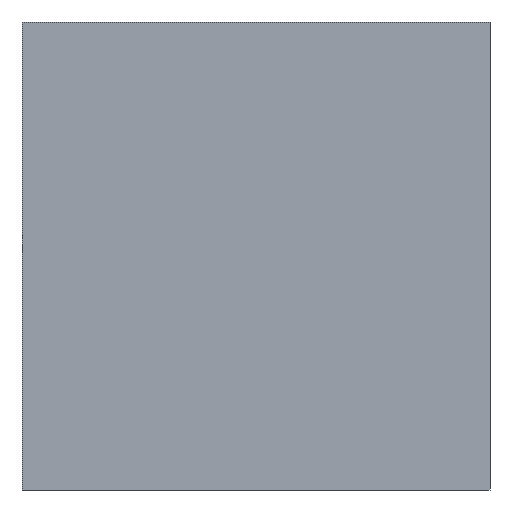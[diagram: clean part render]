
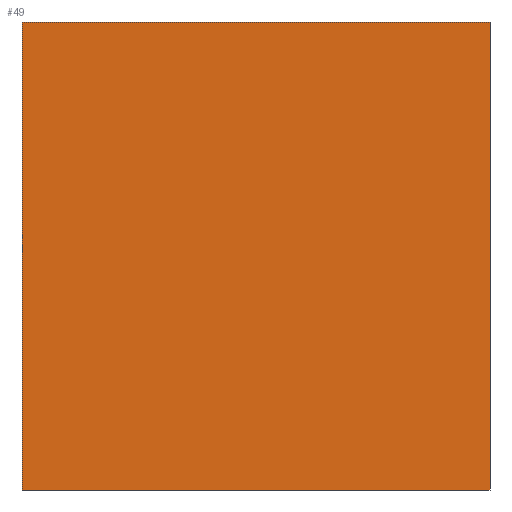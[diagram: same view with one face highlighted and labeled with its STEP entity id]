
A CAD part, left-side view. The second image highlights one B-rep face of the part: STEP entity #49.
In plain terms, the highlighted planar face has unit normal (-1, 0, 0).
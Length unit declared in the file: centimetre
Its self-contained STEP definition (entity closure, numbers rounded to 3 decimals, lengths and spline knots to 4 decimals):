
#1 = EDGE_CURVE ( 'NONE', #336, #219, #194, .T. ) ;
#19 = CARTESIAN_POINT ( 'NONE',  ( 0., 1000., 0. ) ) ;
#20 = DIRECTION ( 'NONE',  ( 0., 0., -1. ) ) ;
#48 = AXIS2_PLACEMENT_3D ( 'NONE', #161, #217, #195 ) ;
#49 = ADVANCED_FACE ( 'NONE', ( #77 ), #166, .F. ) ;
#76 = CARTESIAN_POINT ( 'NONE',  ( 0., 0., 1000. ) ) ;
#77 = FACE_OUTER_BOUND ( 'NONE', #137, .T. ) ;
#86 = EDGE_CURVE ( 'NONE', #191, #219, #135, .T. ) ;
#99 = ORIENTED_EDGE ( 'NONE', *, *, #236, .T. ) ;
#124 = LINE ( 'NONE', #183, #176 ) ;
#135 = LINE ( 'NONE', #328, #168 ) ;
#137 = EDGE_LOOP ( 'NONE', ( #264, #171, #308, #99 ) ) ;
#146 = CARTESIAN_POINT ( 'NONE',  ( 0., 1000., 1000. ) ) ;
#161 = CARTESIAN_POINT ( 'NONE',  ( 0., 1000., 1000. ) ) ;
#166 = PLANE ( 'NONE',  #48 ) ;
#168 = VECTOR ( 'NONE', #362, 100. ) ;
#171 = ORIENTED_EDGE ( 'NONE', *, *, #1, .F. ) ;
#176 = VECTOR ( 'NONE', #356, 100. ) ;
#183 = CARTESIAN_POINT ( 'NONE',  ( 0., 1000., 1000. ) ) ;
#191 = VERTEX_POINT ( 'NONE', #19 ) ;
#194 = LINE ( 'NONE', #76, #270 ) ;
#195 = DIRECTION ( 'NONE',  ( 0., 0., -1. ) ) ;
#204 = DIRECTION ( 'NONE',  ( 0., 0., -1. ) ) ;
#215 = VERTEX_POINT ( 'NONE', #307 ) ;
#217 = DIRECTION ( 'NONE',  ( 1., 0., 0. ) ) ;
#218 = CARTESIAN_POINT ( 'NONE',  ( 0., 0., 0. ) ) ;
#219 = VERTEX_POINT ( 'NONE', #218 ) ;
#233 = LINE ( 'NONE', #146, #283 ) ;
#236 = EDGE_CURVE ( 'NONE', #215, #191, #233, .T. ) ;
#264 = ORIENTED_EDGE ( 'NONE', *, *, #86, .T. ) ;
#265 = CARTESIAN_POINT ( 'NONE',  ( 0., 0., 1000. ) ) ;
#270 = VECTOR ( 'NONE', #20, 100. ) ;
#283 = VECTOR ( 'NONE', #204, 100. ) ;
#307 = CARTESIAN_POINT ( 'NONE',  ( 0., 1000., 1000. ) ) ;
#308 = ORIENTED_EDGE ( 'NONE', *, *, #314, .F. ) ;
#314 = EDGE_CURVE ( 'NONE', #215, #336, #124, .T. ) ;
#328 = CARTESIAN_POINT ( 'NONE',  ( 0., 1000., 0. ) ) ;
#336 = VERTEX_POINT ( 'NONE', #265 ) ;
#356 = DIRECTION ( 'NONE',  ( 0., -1., 0. ) ) ;
#362 = DIRECTION ( 'NONE',  ( 0., -1., 0. ) ) ;
